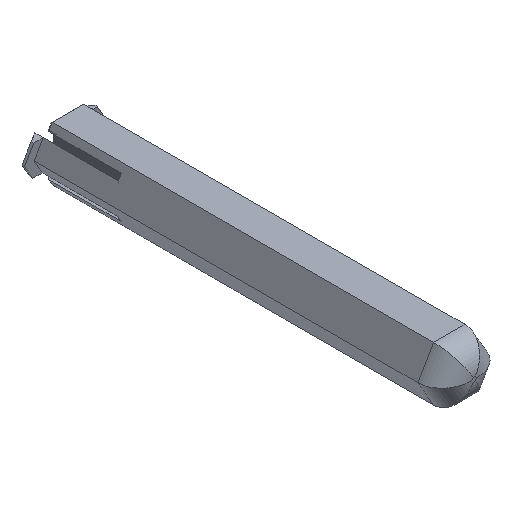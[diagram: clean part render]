
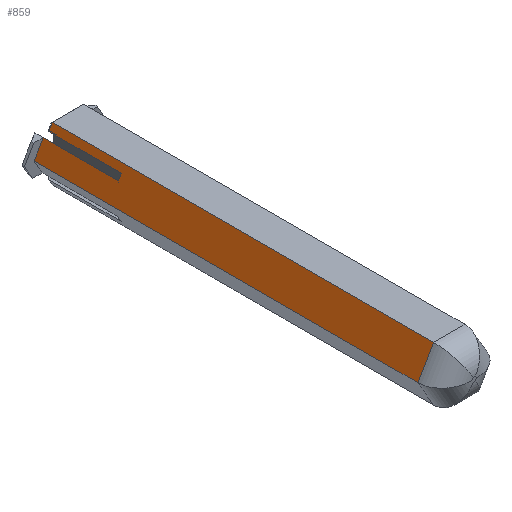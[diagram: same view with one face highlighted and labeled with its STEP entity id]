
A CAD part, isometric view. The second image highlights one B-rep face of the part: STEP entity #859.
In plain terms, the highlighted planar face has unit normal (-0.866, 0, 0.5).
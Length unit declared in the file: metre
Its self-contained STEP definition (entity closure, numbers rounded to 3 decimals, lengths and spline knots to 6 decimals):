
#80=ORIENTED_EDGE('',*,*,#314,.F.);
#81=ORIENTED_EDGE('',*,*,#319,.T.);
#82=ORIENTED_EDGE('',*,*,#320,.T.);
#83=ORIENTED_EDGE('',*,*,#321,.T.);
#84=ORIENTED_EDGE('',*,*,#322,.T.);
#85=ORIENTED_EDGE('',*,*,#323,.F.);
#86=ORIENTED_EDGE('',*,*,#280,.F.);
#87=ORIENTED_EDGE('',*,*,#291,.T.);
#280=EDGE_CURVE('',#404,#405,#482,.T.);
#291=EDGE_CURVE('',#404,#413,#493,.T.);
#314=EDGE_CURVE('',#428,#413,#516,.T.);
#319=EDGE_CURVE('',#428,#432,#521,.F.);
#320=EDGE_CURVE('',#432,#433,#522,.T.);
#321=EDGE_CURVE('',#433,#434,#523,.T.);
#322=EDGE_CURVE('',#434,#435,#524,.T.);
#323=EDGE_CURVE('',#405,#435,#525,.T.);
#404=VERTEX_POINT('',#1210);
#405=VERTEX_POINT('',#1212);
#413=VERTEX_POINT('',#1232);
#428=VERTEX_POINT('',#1277);
#432=VERTEX_POINT('',#1288);
#433=VERTEX_POINT('',#1290);
#434=VERTEX_POINT('',#1292);
#435=VERTEX_POINT('',#1294);
#482=LINE('',#1211,#600);
#493=LINE('',#1233,#611);
#516=LINE('',#1278,#634);
#521=LINE('',#1287,#639);
#522=LINE('',#1289,#640);
#523=LINE('',#1291,#641);
#524=LINE('',#1293,#642);
#525=LINE('',#1295,#643);
#600=VECTOR('',#977,1.);
#611=VECTOR('',#992,1.);
#634=VECTOR('',#1029,1.);
#639=VECTOR('',#1036,1.);
#640=VECTOR('',#1037,1.);
#641=VECTOR('',#1038,1.);
#642=VECTOR('',#1039,1.);
#643=VECTOR('',#1040,1.);
#721=EDGE_LOOP('',(#80,#81,#82,#83,#84,#85,#86,#87));
#769=FACE_BOUND('',#721,.T.);
#817=PLANE('',#920);
#859=ADVANCED_FACE('',(#769),#817,.F.);
#920=AXIS2_PLACEMENT_3D('',#1286,#1034,#1035);
#977=DIRECTION('',(0.,-1.,0.));
#992=DIRECTION('',(-0.5,0.,-0.866));
#1029=DIRECTION('',(0.,1.,0.));
#1034=DIRECTION('',(0.866,0.,-0.5));
#1035=DIRECTION('',(-0.5,0.,-0.866));
#1036=DIRECTION('',(-0.5,0.,-0.866));
#1037=DIRECTION('',(0.,1.,0.));
#1038=DIRECTION('',(-0.5,0.,-0.866));
#1039=DIRECTION('',(0.,-1.,0.));
#1040=DIRECTION('',(0.5,0.,0.866));
#1210=CARTESIAN_POINT('',(0.026916,-0.002,0.008444));
#1211=CARTESIAN_POINT('',(0.026916,-0.1,0.008444));
#1212=CARTESIAN_POINT('',(0.026916,-0.02,0.008444));
#1232=CARTESIAN_POINT('',(0.024725,-0.002,0.00465));
#1233=CARTESIAN_POINT('',(0.026602,-0.002,0.0079));
#1277=CARTESIAN_POINT('',(0.024725,-0.094,0.00465));
#1278=CARTESIAN_POINT('',(0.024725,-0.1,0.00465));
#1286=CARTESIAN_POINT('',(0.026602,-0.1,0.0079));
#1287=CARTESIAN_POINT('',(0.028478,-0.094,0.01115));
#1288=CARTESIAN_POINT('',(0.028478,-0.094,0.01115));
#1289=CARTESIAN_POINT('',(0.028478,-0.1,0.01115));
#1290=CARTESIAN_POINT('',(0.028478,-0.0026,0.01115));
#1291=CARTESIAN_POINT('',(0.026602,-0.0026,0.0079));
#1292=CARTESIAN_POINT('',(0.02763,-0.0026,0.00968));
#1293=CARTESIAN_POINT('',(0.02763,-0.1,0.00968));
#1294=CARTESIAN_POINT('',(0.02763,-0.02,0.00968));
#1295=CARTESIAN_POINT('',(0.026602,-0.02,0.0079));
